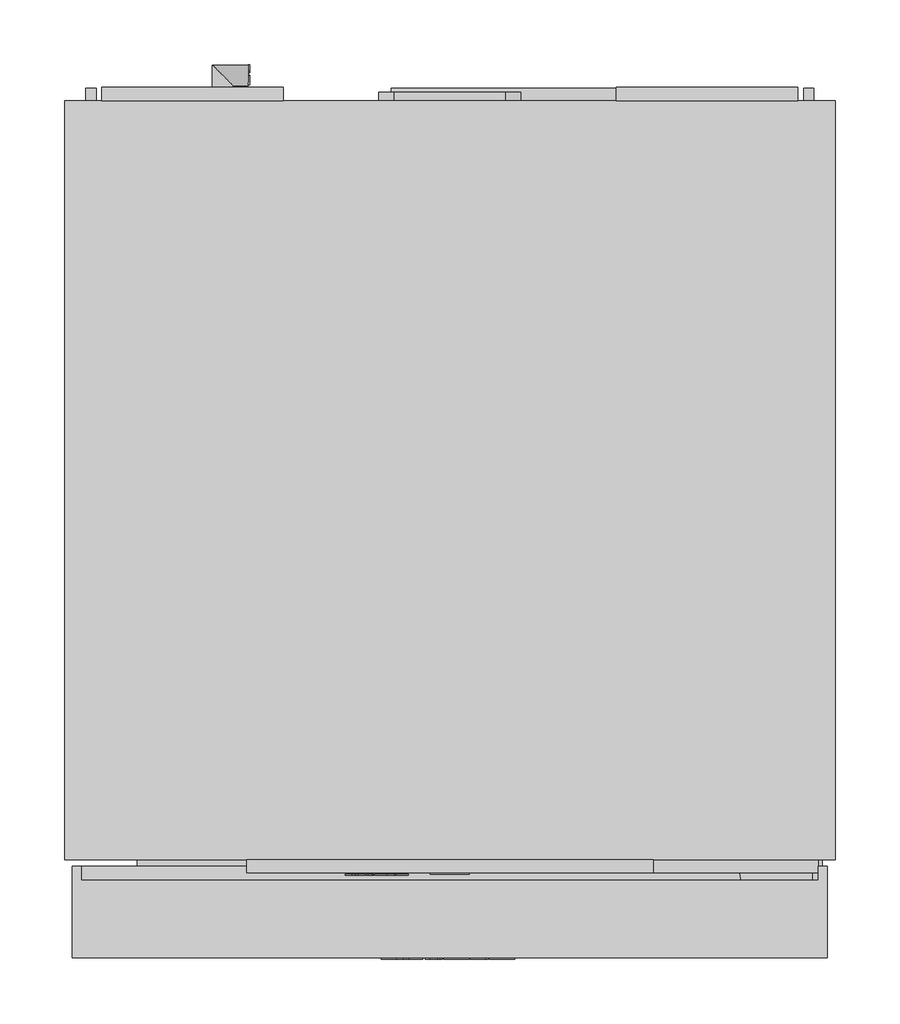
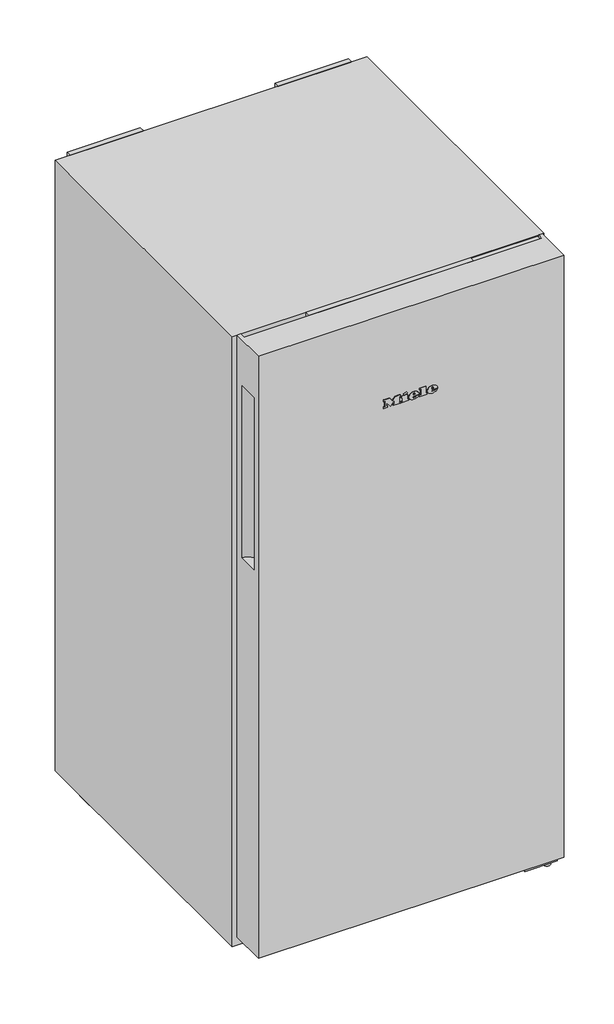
# Not in any storey: 1 proxy.
"""IFC4 building model written with IfcOpenShell, lengths in millimetres."""

from ifc_helpers import new_model, si_unit, origin, place, context, project, spatial, transform, mapped, element, save
from components import specialty_equipment_585d7e85

model = new_model("IFC4")

# Units and contexts
model_context = context("Model", 3, world=origin())
ifc_project = project(units=[si_unit("LENGTHUNIT", "METRE", prefix="MILLI")], contexts=[model_context])

# Site, building
site = spatial("IfcSite", under=ifc_project)
building = spatial("IfcBuilding", under=site)

# Proxy
placement = place(None, origin())
specialty_equipment_shape = specialty_equipment_585d7e85(model_context)
element("IfcBuildingElementProxy", 1, Name="12430250_CH_FN4312D_WS : 37431244_CH_12430250_FN4312D_WS", ObjectType="12430250_CH_FN4312D_WS : 37431244_CH_12430250_FN4312D_WS", at=placement, inside=building, context=model_context, shape_type="MappedRepresentation", body=[
    mapped(specialty_equipment_shape, transform((0.0, 0.0, 0.0), x_axis=(1.0, 0.0, 0.0), y_axis=(0.0, 1.0, 0.0), z_axis=(0.0, 0.0, 1.0))),
])

save(model, "model.ifc")
